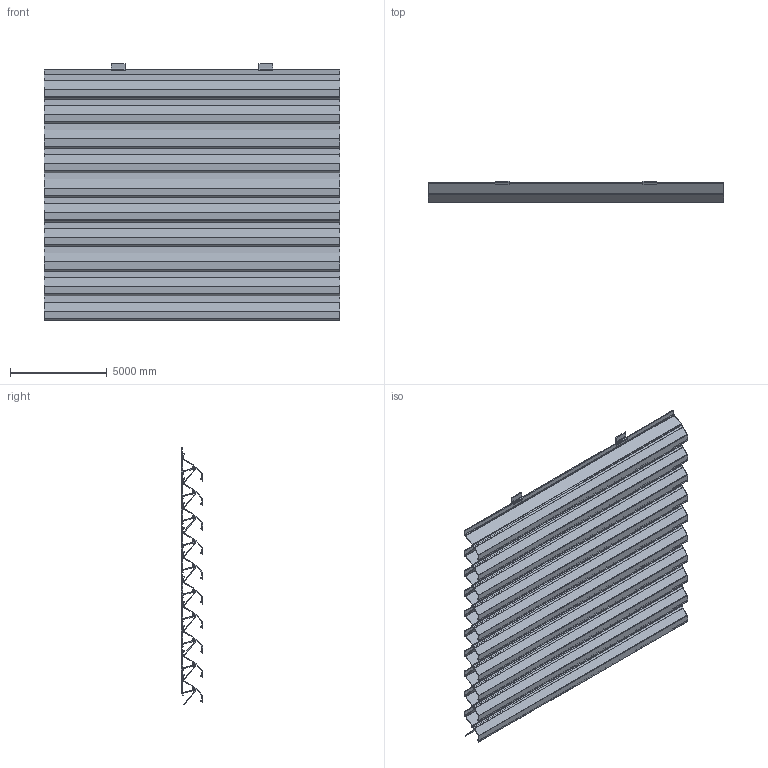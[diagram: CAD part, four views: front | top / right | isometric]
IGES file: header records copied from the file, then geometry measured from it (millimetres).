
Global section: file name: 3D_L_050CL; native system: AutoCAD 2023 - English; preprocessor: Autodesk Translation Framework DWG producer (atf_dwg_producer); organization: unknown; date: 20260202.112318; units: inch
Bounding box: 15240 x 1092.2 x 13261.61 mm (x, y, z)
Volume: 18993101719 mm3; surface area: 1027958260.7 mm2
Topology: 30 solids, 30 shells, 1590 faces, 4590 edges, 3060 vertices
Faces by surface type: bspline 1590
